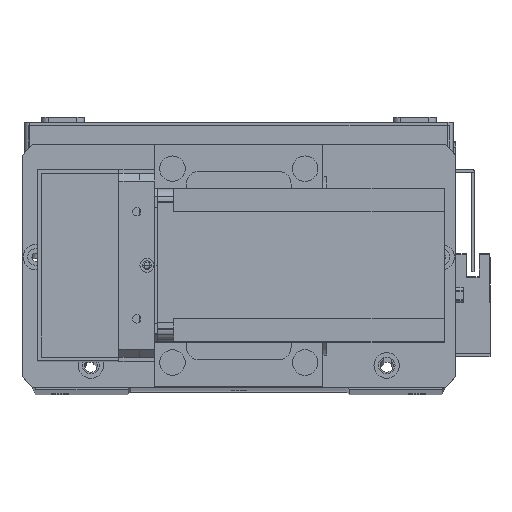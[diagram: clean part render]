
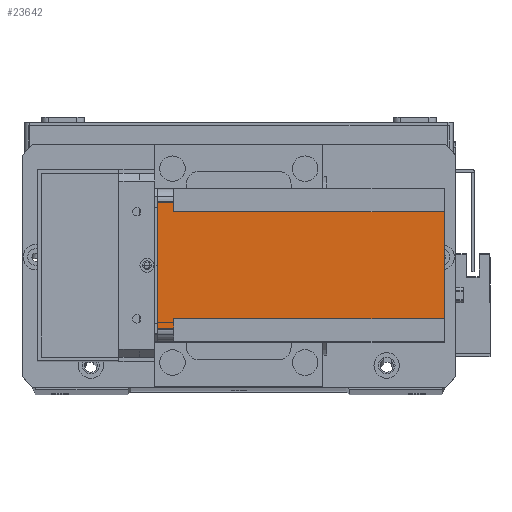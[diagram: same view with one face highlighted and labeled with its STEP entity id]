
A CAD part, top view. The second image highlights one B-rep face of the part: STEP entity #23642.
In plain terms, the highlighted planar face has unit normal (0, 0, 1) as drawn and (-1, 0, 0) by its records, which use the part's own axes.
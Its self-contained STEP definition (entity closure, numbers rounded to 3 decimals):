
#62 = EDGE_CURVE ( 'NONE', #3026, #11813, #1617, .T. ) ;
#306 = VECTOR ( 'NONE', #17148, 1000. ) ;
#701 = DIRECTION ( 'NONE',  ( 0., -1., 0. ) ) ;
#706 = CARTESIAN_POINT ( 'NONE',  ( 0., 55., 0. ) ) ;
#1373 = DIRECTION ( 'NONE',  ( 0., 1., 0. ) ) ;
#1398 = EDGE_CURVE ( 'NONE', #18737, #23743, #13429, .T. ) ;
#1617 = LINE ( 'NONE', #14545, #20411 ) ;
#3026 = VERTEX_POINT ( 'NONE', #3304 ) ;
#3304 = CARTESIAN_POINT ( 'NONE',  ( 0., 5., -6.5 ) ) ;
#3536 = ORIENTED_EDGE ( 'NONE', *, *, #62, .F. ) ;
#5470 = CARTESIAN_POINT ( 'NONE',  ( 0., 55., -112.5 ) ) ;
#6292 = VECTOR ( 'NONE', #22593, 1000. ) ;
#6780 = ORIENTED_EDGE ( 'NONE', *, *, #12860, .T. ) ;
#6907 = VECTOR ( 'NONE', #23374, 1000. ) ;
#7017 = EDGE_CURVE ( 'NONE', #11813, #23743, #20832, .T. ) ;
#7330 = EDGE_CURVE ( 'NONE', #18737, #22578, #30416, .T. ) ;
#7410 = EDGE_CURVE ( 'NONE', #13072, #15024, #23863, .T. ) ;
#7801 = VECTOR ( 'NONE', #19401, 1000. ) ;
#7983 = CARTESIAN_POINT ( 'NONE',  ( 0., 0., -112.5 ) ) ;
#8230 = CARTESIAN_POINT ( 'NONE',  ( 0., 60., -6.5 ) ) ;
#8522 = VECTOR ( 'NONE', #20937, 1000. ) ;
#8658 = EDGE_CURVE ( 'NONE', #13072, #28335, #20847, .T. ) ;
#8687 = CARTESIAN_POINT ( 'NONE',  ( 0., 0., -112.5 ) ) ;
#9872 = ORIENTED_EDGE ( 'NONE', *, *, #23069, .F. ) ;
#10031 = CARTESIAN_POINT ( 'NONE',  ( 0., 51., -112.5 ) ) ;
#10486 = FACE_OUTER_BOUND ( 'NONE', #13983, .T. ) ;
#10709 = DIRECTION ( 'NONE',  ( 0., 1., 0. ) ) ;
#11278 = CARTESIAN_POINT ( 'NONE',  ( 0., 51., -6.5 ) ) ;
#11813 = VERTEX_POINT ( 'NONE', #18667 ) ;
#12080 = LINE ( 'NONE', #8230, #24314 ) ;
#12860 = EDGE_CURVE ( 'NONE', #3026, #15024, #20640, .T. ) ;
#13072 = VERTEX_POINT ( 'NONE', #706 ) ;
#13429 = LINE ( 'NONE', #8687, #6907 ) ;
#13978 = ORIENTED_EDGE ( 'NONE', *, *, #8658, .T. ) ;
#13983 = EDGE_LOOP ( 'NONE', ( #3536, #6780, #20659, #13978, #9872, #24277, #17772, #16126 ) ) ;
#14545 = CARTESIAN_POINT ( 'NONE',  ( 0., 0., -6.5 ) ) ;
#15024 = VERTEX_POINT ( 'NONE', #18618 ) ;
#15417 = DIRECTION ( 'NONE',  ( -1., 0., 0. ) ) ;
#16028 = CARTESIAN_POINT ( 'NONE',  ( 0., 0., 0. ) ) ;
#16126 = ORIENTED_EDGE ( 'NONE', *, *, #7017, .F. ) ;
#17148 = DIRECTION ( 'NONE',  ( 0., 0., 1. ) ) ;
#17402 = VECTOR ( 'NONE', #18181, 1000. ) ;
#17729 = CARTESIAN_POINT ( 'NONE',  ( 0., 55., -6.5 ) ) ;
#17772 = ORIENTED_EDGE ( 'NONE', *, *, #1398, .T. ) ;
#18173 = CARTESIAN_POINT ( 'NONE',  ( 0., 9., -112.5 ) ) ;
#18181 = DIRECTION ( 'NONE',  ( 0., 0., 1. ) ) ;
#18618 = CARTESIAN_POINT ( 'NONE',  ( 0., 5., 0. ) ) ;
#18667 = CARTESIAN_POINT ( 'NONE',  ( 0., 9., -6.5 ) ) ;
#18737 = VERTEX_POINT ( 'NONE', #10031 ) ;
#19401 = DIRECTION ( 'NONE',  ( 0., 0., -1. ) ) ;
#20411 = VECTOR ( 'NONE', #1373, 1000. ) ;
#20640 = LINE ( 'NONE', #31817, #306 ) ;
#20659 = ORIENTED_EDGE ( 'NONE', *, *, #7410, .F. ) ;
#20832 = LINE ( 'NONE', #24193, #7801 ) ;
#20847 = LINE ( 'NONE', #5470, #6292 ) ;
#20937 = DIRECTION ( 'NONE',  ( 0., -1., 0. ) ) ;
#22578 = VERTEX_POINT ( 'NONE', #11278 ) ;
#22593 = DIRECTION ( 'NONE',  ( 0., 0., -1. ) ) ;
#23069 = EDGE_CURVE ( 'NONE', #22578, #28335, #12080, .T. ) ;
#23374 = DIRECTION ( 'NONE',  ( 0., -1., 0. ) ) ;
#23642 = ADVANCED_FACE ( 'NONE', ( #10486 ), #30081, .T. ) ;
#23743 = VERTEX_POINT ( 'NONE', #18173 ) ;
#23863 = LINE ( 'NONE', #16028, #8522 ) ;
#24193 = CARTESIAN_POINT ( 'NONE',  ( 0., 9., -112.5 ) ) ;
#24277 = ORIENTED_EDGE ( 'NONE', *, *, #7330, .F. ) ;
#24314 = VECTOR ( 'NONE', #10709, 1000. ) ;
#25343 = CARTESIAN_POINT ( 'NONE',  ( 0., 51., -112.5 ) ) ;
#28335 = VERTEX_POINT ( 'NONE', #17729 ) ;
#29839 = AXIS2_PLACEMENT_3D ( 'NONE', #7983, #15417, #701 ) ;
#30081 = PLANE ( 'NONE',  #29839 ) ;
#30416 = LINE ( 'NONE', #25343, #17402 ) ;
#31817 = CARTESIAN_POINT ( 'NONE',  ( 0., 5., -112.5 ) ) ;
